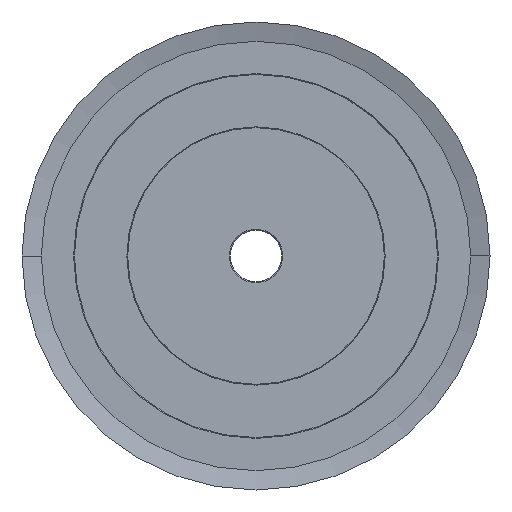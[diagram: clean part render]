
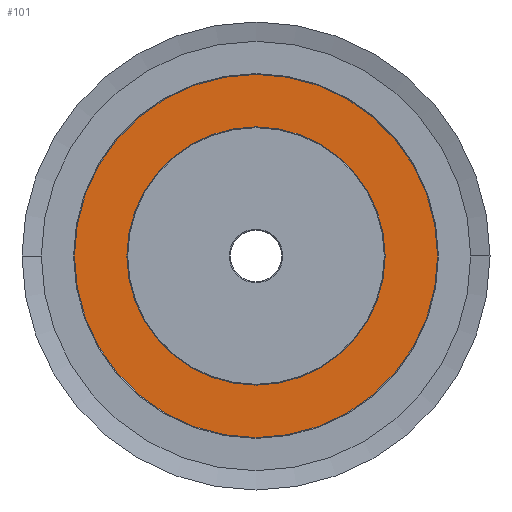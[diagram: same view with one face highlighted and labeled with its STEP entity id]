
A CAD part, left-side view. The second image highlights one B-rep face of the part: STEP entity #101.
In plain terms, the highlighted planar face has unit normal (-1, 0, 0).
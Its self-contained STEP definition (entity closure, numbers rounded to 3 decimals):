
#101=ADVANCED_FACE('',(#472,#473),#474,.T.);
#472=FACE_BOUND('',#1164,.T.);
#473=FACE_OUTER_BOUND('',#1165,.T.);
#474=PLANE('',#1166);
#1164=EDGE_LOOP('',(#1992,#1993));
#1165=EDGE_LOOP('',(#1994,#1995,#1996));
#1166=AXIS2_PLACEMENT_3D('',#1997,#1998,#1999);
#1992=ORIENTED_EDGE('',*,*,#4873,.T.);
#1993=ORIENTED_EDGE('',*,*,#4858,.T.);
#1994=ORIENTED_EDGE('',*,*,#4879,.F.);
#1995=ORIENTED_EDGE('',*,*,#4880,.F.);
#1996=ORIENTED_EDGE('',*,*,#4827,.F.);
#1997=CARTESIAN_POINT('',(80.65,0.0,0.0));
#1998=DIRECTION('',(-1.0,0.0,0.0));
#1999=DIRECTION('',(0.0,0.0,1.0));
#4827=EDGE_CURVE('',#5830,#5833,#5834,.T.);
#4858=EDGE_CURVE('',#5885,#5888,#5890,.T.);
#4873=EDGE_CURVE('',#5888,#5885,#5913,.T.);
#4879=EDGE_CURVE('',#5919,#5830,#5920,.T.);
#4880=EDGE_CURVE('',#5833,#5919,#5921,.T.);
#5830=VERTEX_POINT('',#7484);
#5833=VERTEX_POINT('',#7488);
#5834=CIRCLE('',#7489,112.5);
#5885=VERTEX_POINT('',#7553);
#5888=VERTEX_POINT('',#7557);
#5890=CIRCLE('',#7560,80.0);
#5913=CIRCLE('',#7589,80.0);
#5919=VERTEX_POINT('',#7595);
#5920=CIRCLE('',#7596,112.5);
#5921=CIRCLE('',#7597,112.5);
#7484=CARTESIAN_POINT('',(80.65,112.5,0.));
#7488=CARTESIAN_POINT('',(80.65,-112.5,0.));
#7489=AXIS2_PLACEMENT_3D('',#9453,#9454,#9455);
#7553=CARTESIAN_POINT('',(80.65,0.,-80.0));
#7557=CARTESIAN_POINT('',(80.65,0.,80.0));
#7560=AXIS2_PLACEMENT_3D('',#9516,#9517,#9518);
#7589=AXIS2_PLACEMENT_3D('',#9549,#9550,#9551);
#7595=CARTESIAN_POINT('',(80.65,0.0,-112.5));
#7596=AXIS2_PLACEMENT_3D('',#9567,#9568,#9569);
#7597=AXIS2_PLACEMENT_3D('',#9570,#9571,#9572);
#9453=CARTESIAN_POINT('',(80.65,0.0,0.0));
#9454=DIRECTION('',(1.0,0.0,0.0));
#9455=DIRECTION('',(0.0,1.0,0.0));
#9516=CARTESIAN_POINT('',(80.65,0.0,0.0));
#9517=DIRECTION('',(1.0,0.0,0.0));
#9518=DIRECTION('',(0.0,0.0,-1.0));
#9549=CARTESIAN_POINT('',(80.65,0.0,0.0));
#9550=DIRECTION('',(1.0,0.0,0.0));
#9551=DIRECTION('',(0.0,0.0,-1.0));
#9567=CARTESIAN_POINT('',(80.65,0.0,0.0));
#9568=DIRECTION('',(1.0,0.0,0.0));
#9569=DIRECTION('',(0.0,1.0,0.0));
#9570=CARTESIAN_POINT('',(80.65,0.0,0.0));
#9571=DIRECTION('',(1.0,0.0,0.0));
#9572=DIRECTION('',(0.0,1.0,0.0));
